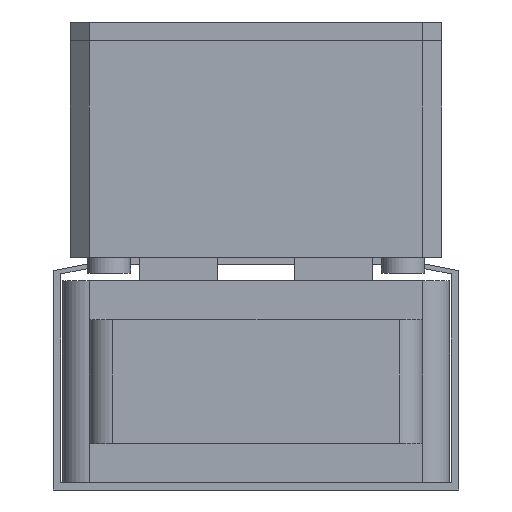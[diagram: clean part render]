
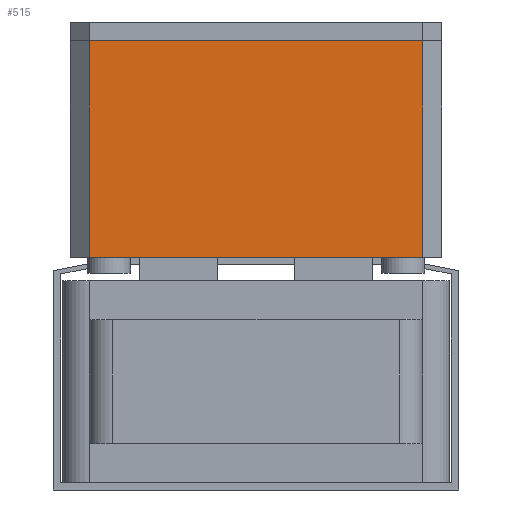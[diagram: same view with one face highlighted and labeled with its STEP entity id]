
A CAD part, front view. The second image highlights one B-rep face of the part: STEP entity #515.
In plain terms, the highlighted planar face has unit normal (0, -1, 0).
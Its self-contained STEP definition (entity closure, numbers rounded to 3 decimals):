
#515 = ADVANCED_FACE('',(#516),#530,.F.);
#516 = FACE_BOUND('',#517,.F.);
#517 = EDGE_LOOP('',(#518,#553,#581,#609));
#518 = ORIENTED_EDGE('',*,*,#519,.T.);
#519 = EDGE_CURVE('',#520,#522,#524,.T.);
#520 = VERTEX_POINT('',#521);
#521 = CARTESIAN_POINT('',(-21.5,-81.,0.));
#522 = VERTEX_POINT('',#523);
#523 = CARTESIAN_POINT('',(-21.5,-81.,28.));
#524 = SURFACE_CURVE('',#525,(#529,#541),.PCURVE_S1.);
#525 = LINE('',#526,#527);
#526 = CARTESIAN_POINT('',(-21.5,-81.,0.));
#527 = VECTOR('',#528,1.);
#528 = DIRECTION('',(0.,0.,1.));
#529 = PCURVE('',#530,#535);
#530 = PLANE('',#531);
#531 = AXIS2_PLACEMENT_3D('',#532,#533,#534);
#532 = CARTESIAN_POINT('',(-21.5,-81.,0.));
#533 = DIRECTION('',(0.,1.,0.));
#534 = DIRECTION('',(1.,0.,0.));
#535 = DEFINITIONAL_REPRESENTATION('',(#536),#540);
#536 = LINE('',#537,#538);
#537 = CARTESIAN_POINT('',(0.,0.));
#538 = VECTOR('',#539,1.);
#539 = DIRECTION('',(0.,-1.));
#540 = ( GEOMETRIC_REPRESENTATION_CONTEXT(2) 
PARAMETRIC_REPRESENTATION_CONTEXT() REPRESENTATION_CONTEXT('2D SPACE',''
  ) );
#541 = PCURVE('',#542,#547);
#542 = PLANE('',#543);
#543 = AXIS2_PLACEMENT_3D('',#544,#545,#546);
#544 = CARTESIAN_POINT('',(-24.,-78.5,0.));
#545 = DIRECTION('',(0.707,0.707,-0.));
#546 = DIRECTION('',(0.707,-0.707,0.));
#547 = DEFINITIONAL_REPRESENTATION('',(#548),#552);
#548 = LINE('',#549,#550);
#549 = CARTESIAN_POINT('',(3.536,0.));
#550 = VECTOR('',#551,1.);
#551 = DIRECTION('',(0.,-1.));
#552 = ( GEOMETRIC_REPRESENTATION_CONTEXT(2) 
PARAMETRIC_REPRESENTATION_CONTEXT() REPRESENTATION_CONTEXT('2D SPACE',''
  ) );
#553 = ORIENTED_EDGE('',*,*,#554,.T.);
#554 = EDGE_CURVE('',#522,#555,#557,.T.);
#555 = VERTEX_POINT('',#556);
#556 = CARTESIAN_POINT('',(21.5,-81.,28.));
#557 = SURFACE_CURVE('',#558,(#562,#569),.PCURVE_S1.);
#558 = LINE('',#559,#560);
#559 = CARTESIAN_POINT('',(-21.5,-81.,28.));
#560 = VECTOR('',#561,1.);
#561 = DIRECTION('',(1.,0.,0.));
#562 = PCURVE('',#530,#563);
#563 = DEFINITIONAL_REPRESENTATION('',(#564),#568);
#564 = LINE('',#565,#566);
#565 = CARTESIAN_POINT('',(0.,-28.));
#566 = VECTOR('',#567,1.);
#567 = DIRECTION('',(1.,0.));
#568 = ( GEOMETRIC_REPRESENTATION_CONTEXT(2) 
PARAMETRIC_REPRESENTATION_CONTEXT() REPRESENTATION_CONTEXT('2D SPACE',''
  ) );
#569 = PCURVE('',#570,#575);
#570 = PLANE('',#571);
#571 = AXIS2_PLACEMENT_3D('',#572,#573,#574);
#572 = CARTESIAN_POINT('',(0.,0.,28.)
  );
#573 = DIRECTION('',(0.,0.,1.));
#574 = DIRECTION('',(1.,0.,-0.));
#575 = DEFINITIONAL_REPRESENTATION('',(#576),#580);
#576 = LINE('',#577,#578);
#577 = CARTESIAN_POINT('',(-21.5,-81.));
#578 = VECTOR('',#579,1.);
#579 = DIRECTION('',(1.,0.));
#580 = ( GEOMETRIC_REPRESENTATION_CONTEXT(2) 
PARAMETRIC_REPRESENTATION_CONTEXT() REPRESENTATION_CONTEXT('2D SPACE',''
  ) );
#581 = ORIENTED_EDGE('',*,*,#582,.F.);
#582 = EDGE_CURVE('',#583,#555,#585,.T.);
#583 = VERTEX_POINT('',#584);
#584 = CARTESIAN_POINT('',(21.5,-81.,0.));
#585 = SURFACE_CURVE('',#586,(#590,#597),.PCURVE_S1.);
#586 = LINE('',#587,#588);
#587 = CARTESIAN_POINT('',(21.5,-81.,0.));
#588 = VECTOR('',#589,1.);
#589 = DIRECTION('',(0.,0.,1.));
#590 = PCURVE('',#530,#591);
#591 = DEFINITIONAL_REPRESENTATION('',(#592),#596);
#592 = LINE('',#593,#594);
#593 = CARTESIAN_POINT('',(43.,0.));
#594 = VECTOR('',#595,1.);
#595 = DIRECTION('',(0.,-1.));
#596 = ( GEOMETRIC_REPRESENTATION_CONTEXT(2) 
PARAMETRIC_REPRESENTATION_CONTEXT() REPRESENTATION_CONTEXT('2D SPACE',''
  ) );
#597 = PCURVE('',#598,#603);
#598 = PLANE('',#599);
#599 = AXIS2_PLACEMENT_3D('',#600,#601,#602);
#600 = CARTESIAN_POINT('',(21.5,-81.,0.));
#601 = DIRECTION('',(-0.707,0.707,0.));
#602 = DIRECTION('',(0.707,0.707,0.));
#603 = DEFINITIONAL_REPRESENTATION('',(#604),#608);
#604 = LINE('',#605,#606);
#605 = CARTESIAN_POINT('',(0.,0.));
#606 = VECTOR('',#607,1.);
#607 = DIRECTION('',(0.,-1.));
#608 = ( GEOMETRIC_REPRESENTATION_CONTEXT(2) 
PARAMETRIC_REPRESENTATION_CONTEXT() REPRESENTATION_CONTEXT('2D SPACE',''
  ) );
#609 = ORIENTED_EDGE('',*,*,#610,.F.);
#610 = EDGE_CURVE('',#520,#583,#611,.T.);
#611 = SURFACE_CURVE('',#612,(#616,#623),.PCURVE_S1.);
#612 = LINE('',#613,#614);
#613 = CARTESIAN_POINT('',(-21.5,-81.,0.));
#614 = VECTOR('',#615,1.);
#615 = DIRECTION('',(1.,0.,0.));
#616 = PCURVE('',#530,#617);
#617 = DEFINITIONAL_REPRESENTATION('',(#618),#622);
#618 = LINE('',#619,#620);
#619 = CARTESIAN_POINT('',(0.,0.));
#620 = VECTOR('',#621,1.);
#621 = DIRECTION('',(1.,0.));
#622 = ( GEOMETRIC_REPRESENTATION_CONTEXT(2) 
PARAMETRIC_REPRESENTATION_CONTEXT() REPRESENTATION_CONTEXT('2D SPACE',''
  ) );
#623 = PCURVE('',#624,#629);
#624 = PLANE('',#625);
#625 = AXIS2_PLACEMENT_3D('',#626,#627,#628);
#626 = CARTESIAN_POINT('',(0.,0.,0.));
#627 = DIRECTION('',(0.,0.,1.));
#628 = DIRECTION('',(1.,0.,-0.));
#629 = DEFINITIONAL_REPRESENTATION('',(#630),#634);
#630 = LINE('',#631,#632);
#631 = CARTESIAN_POINT('',(-21.5,-81.));
#632 = VECTOR('',#633,1.);
#633 = DIRECTION('',(1.,0.));
#634 = ( GEOMETRIC_REPRESENTATION_CONTEXT(2) 
PARAMETRIC_REPRESENTATION_CONTEXT() REPRESENTATION_CONTEXT('2D SPACE',''
  ) );
